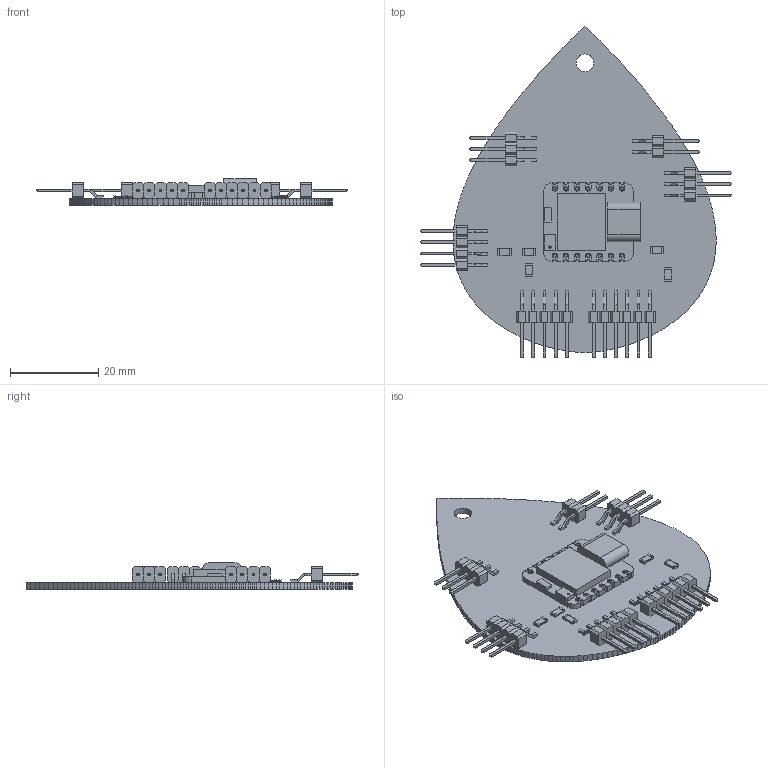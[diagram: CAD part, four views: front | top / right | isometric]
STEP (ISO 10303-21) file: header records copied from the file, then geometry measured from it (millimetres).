
FILE_DESCRIPTION(('KiCad electronic assembly'),'2;1');
FILE_NAME('Planty Final PCB.step','2025-05-14T13:00:04',('Pcbnew'),( 'Kicad'),'Open CASCADE STEP processor 7.8','KiCad to STEP converter' ,'Unknown');
FILE_SCHEMA(('AUTOMOTIVE_DESIGN { 1 0 10303 214 1 1 1 1 }'));
Length unit declared in the file: millimetre
Products named in the file (44): Planty Final PCB 1; Resistor-1206; Ceramic; Contacts; Contacts (Mirror #1); Overcoat; Header_SMD_01x02_P2.54mm_Horizontal_Male; Planty Final PCB 1.2.1; Planty Final PCB 1.2.2; Header_SMD_01x04_P2.54mm_Horizontal_Male; Planty Final PCB 1.4.1; Planty Final PCB 1.4.2; Header_SMD_01x03_P2.54mm_Horizontal_Male; Planty Final PCB 1.5.1; Planty Final PCB 1.5.2; Seeed_XIAO-nRF52840_Sense; SoC_nRF_Sense; Mic_nRF_Sense; Antenna_nRF_Sense; XIAO_Generic; Board; USB; Contact; Contact Clones; Body007; Body008; Body009; Body010; Body011; Body012; Body013; Body014; Body015; Body016; Body017; Body018; Body019; Header_SMD_01x06_P2.54mm_Horizontal_Male; Planty Final PCB 1.11.1; Planty Final PCB 1.11.2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
Assembly tree (48 placements, depth 5):
  Planty Final PCB 1
    Resistor-1206  x5
      Ceramic
      Contacts
      Contacts (Mirror #1)
      Overcoat
    Header_SMD_01x02_P2.54mm_Horizontal_Male
      Planty Final PCB 1.2.1
      Planty Final PCB 1.2.2
    Header_SMD_01x04_P2.54mm_Horizontal_Male
      Planty Final PCB 1.4.1
      Planty Final PCB 1.4.2
    Header_SMD_01x03_P2.54mm_Horizontal_Male  x2
      Planty Final PCB 1.5.1
      Planty Final PCB 1.5.2
    Seeed_XIAO-nRF52840_Sense
      SoC_nRF_Sense
      Mic_nRF_Sense
      Antenna_nRF_Sense
      XIAO_Generic
        Board
        USB
        Contact
        Contact Clones
          Body007
          Body008
          Body009
          Body010
          Body011
          Body012
          Body013
          Body014
          Body015
          Body016
          Body017
          Body018
          Body019
    Header_SMD_01x06_P2.54mm_Horizontal_Male
      Planty Final PCB 1.11.1
      Planty Final PCB 1.11.2
    Header_SMD_01x05_P2.54mm_Horizontal_Male
      Planty Final PCB 1.12.1
      Planty Final PCB 1.12.2
    Planty Final PCB_PCB
Bounding box: 70.56 x 75.26 x 6.05 mm (x, y, z)
Volume: 6011.5 mm3; surface area: 10305.1 mm2
Topology: 86 solids, 86 shells, 1669 faces, 3944 edges, 2450 vertices
Faces by surface type: plane 1501, cylinder 122, revolution 46
Full cylindrical faces by diameter (mm): 0.5 x1, 0.7 x14, 0.8 x28, 4 x1
Entity records: 41052 total; most frequent: CARTESIAN_POINT 7006, ORIENTED_EDGE 6772, DIRECTION 6638, EDGE_CURVE 3386, LINE 3074, VECTOR 3074, VERTEX_POINT 2102, AXIS2_PLACEMENT_3D 1762
